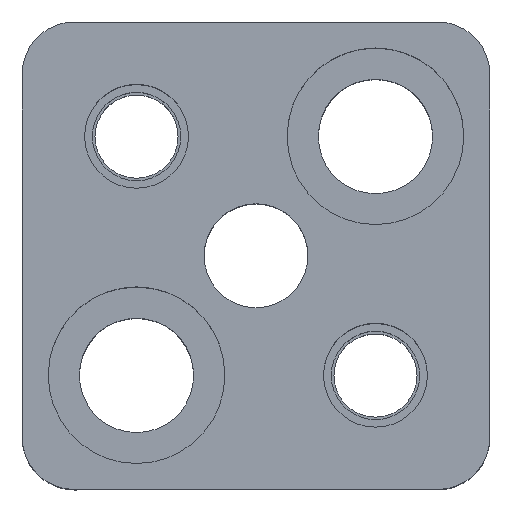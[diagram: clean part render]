
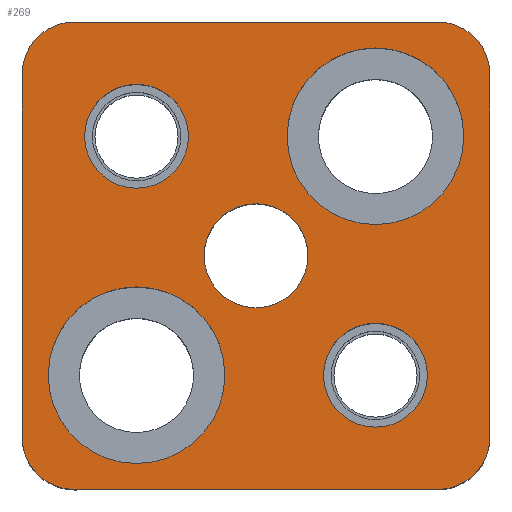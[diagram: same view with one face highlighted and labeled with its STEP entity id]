
A CAD part, top view. The second image highlights one B-rep face of the part: STEP entity #269.
In plain terms, the highlighted planar face has unit normal (0, 0, 1).
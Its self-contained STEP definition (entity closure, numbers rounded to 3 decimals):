
#111=FACE_BOUND('',#400,.T.);
#112=FACE_BOUND('',#401,.T.);
#113=FACE_BOUND('',#402,.T.);
#114=FACE_BOUND('',#403,.T.);
#115=FACE_BOUND('',#404,.T.);
#116=FACE_BOUND('',#405,.T.);
#162=CIRCLE('',#1027,5.);
#164=CIRCLE('',#1031,5.);
#166=CIRCLE('',#1035,5.);
#168=CIRCLE('',#1039,5.);
#181=CIRCLE('',#1065,8.5);
#183=CIRCLE('',#1068,8.5);
#185=CIRCLE('',#1072,8.5);
#187=CIRCLE('',#1075,8.5);
#211=CIRCLE('',#1118,5.);
#212=CIRCLE('',#1119,5.);
#213=CIRCLE('',#1120,5.);
#214=CIRCLE('',#1121,5.);
#215=CIRCLE('',#1122,5.);
#216=CIRCLE('',#1123,5.);
#269=ADVANCED_FACE('',(#111,#112,#113,#114,#115,#116),#297,.T.);
#297=PLANE('',#1124);
#400=EDGE_LOOP('',(#613,#614,#615,#616,#617,#618,#619,#620));
#401=EDGE_LOOP('',(#621,#622));
#402=EDGE_LOOP('',(#623,#624));
#403=EDGE_LOOP('',(#625,#626));
#404=EDGE_LOOP('',(#627,#628));
#405=EDGE_LOOP('',(#629,#630));
#613=ORIENTED_EDGE('',*,*,#785,.T.);
#614=ORIENTED_EDGE('',*,*,#782,.T.);
#615=ORIENTED_EDGE('',*,*,#779,.T.);
#616=ORIENTED_EDGE('',*,*,#776,.T.);
#617=ORIENTED_EDGE('',*,*,#773,.T.);
#618=ORIENTED_EDGE('',*,*,#770,.T.);
#619=ORIENTED_EDGE('',*,*,#791,.T.);
#620=ORIENTED_EDGE('',*,*,#788,.T.);
#621=ORIENTED_EDGE('',*,*,#877,.F.);
#622=ORIENTED_EDGE('',*,*,#878,.F.);
#623=ORIENTED_EDGE('',*,*,#879,.F.);
#624=ORIENTED_EDGE('',*,*,#880,.F.);
#625=ORIENTED_EDGE('',*,*,#830,.F.);
#626=ORIENTED_EDGE('',*,*,#826,.F.);
#627=ORIENTED_EDGE('',*,*,#824,.F.);
#628=ORIENTED_EDGE('',*,*,#820,.F.);
#629=ORIENTED_EDGE('',*,*,#881,.T.);
#630=ORIENTED_EDGE('',*,*,#882,.T.);
#685=VERTEX_POINT('',#1454);
#686=VERTEX_POINT('',#1456);
#688=VERTEX_POINT('',#1462);
#690=VERTEX_POINT('',#1468);
#692=VERTEX_POINT('',#1474);
#694=VERTEX_POINT('',#1480);
#696=VERTEX_POINT('',#1486);
#698=VERTEX_POINT('',#1492);
#715=VERTEX_POINT('',#1567);
#716=VERTEX_POINT('',#1568);
#719=VERTEX_POINT('',#1580);
#720=VERTEX_POINT('',#1581);
#754=VERTEX_POINT('',#1691);
#755=VERTEX_POINT('',#1692);
#756=VERTEX_POINT('',#1695);
#757=VERTEX_POINT('',#1696);
#758=VERTEX_POINT('',#1699);
#759=VERTEX_POINT('',#1700);
#770=EDGE_CURVE('',#686,#685,#902,.T.);
#773=EDGE_CURVE('',#688,#686,#162,.T.);
#776=EDGE_CURVE('',#690,#688,#906,.T.);
#779=EDGE_CURVE('',#692,#690,#164,.T.);
#782=EDGE_CURVE('',#694,#692,#910,.T.);
#785=EDGE_CURVE('',#696,#694,#166,.T.);
#788=EDGE_CURVE('',#698,#696,#914,.T.);
#791=EDGE_CURVE('',#685,#698,#168,.T.);
#820=EDGE_CURVE('',#715,#716,#181,.T.);
#824=EDGE_CURVE('',#716,#715,#183,.T.);
#826=EDGE_CURVE('',#719,#720,#185,.T.);
#830=EDGE_CURVE('',#720,#719,#187,.T.);
#877=EDGE_CURVE('',#754,#755,#211,.T.);
#878=EDGE_CURVE('',#755,#754,#212,.T.);
#879=EDGE_CURVE('',#756,#757,#213,.T.);
#880=EDGE_CURVE('',#757,#756,#214,.T.);
#881=EDGE_CURVE('',#758,#759,#215,.T.);
#882=EDGE_CURVE('',#759,#758,#216,.T.);
#902=LINE('',#1455,#964);
#906=LINE('',#1467,#968);
#910=LINE('',#1479,#972);
#914=LINE('',#1491,#976);
#964=VECTOR('',#1149,1.);
#968=VECTOR('',#1161,1.);
#972=VECTOR('',#1173,1.);
#976=VECTOR('',#1185,1.);
#1027=AXIS2_PLACEMENT_3D('',#1461,#1155,#1156);
#1031=AXIS2_PLACEMENT_3D('',#1473,#1167,#1168);
#1035=AXIS2_PLACEMENT_3D('',#1485,#1179,#1180);
#1039=AXIS2_PLACEMENT_3D('',#1496,#1191,#1192);
#1065=AXIS2_PLACEMENT_3D('',#1566,#1255,#1256);
#1068=AXIS2_PLACEMENT_3D('',#1575,#1263,#1264);
#1072=AXIS2_PLACEMENT_3D('',#1579,#1271,#1272);
#1075=AXIS2_PLACEMENT_3D('',#1588,#1279,#1280);
#1118=AXIS2_PLACEMENT_3D('',#1690,#1387,#1388);
#1119=AXIS2_PLACEMENT_3D('',#1693,#1389,#1390);
#1120=AXIS2_PLACEMENT_3D('',#1694,#1391,#1392);
#1121=AXIS2_PLACEMENT_3D('',#1697,#1393,#1394);
#1122=AXIS2_PLACEMENT_3D('',#1698,#1395,#1396);
#1123=AXIS2_PLACEMENT_3D('',#1701,#1397,#1398);
#1124=AXIS2_PLACEMENT_3D('',#1702,#1399,#1400);
#1149=DIRECTION('',(0.,-1.,0.));
#1155=DIRECTION('',(0.,0.,1.));
#1156=DIRECTION('',(0.707,-0.707,0.));
#1161=DIRECTION('',(-1.,0.,0.));
#1167=DIRECTION('',(0.,0.,1.));
#1168=DIRECTION('',(-0.707,-0.707,0.));
#1173=DIRECTION('',(0.,1.,0.));
#1179=DIRECTION('',(0.,0.,1.));
#1180=DIRECTION('',(-0.707,0.707,0.));
#1185=DIRECTION('',(1.,0.,0.));
#1191=DIRECTION('',(0.,0.,1.));
#1192=DIRECTION('',(0.707,0.707,0.));
#1255=DIRECTION('',(0.,0.,1.));
#1256=DIRECTION('',(-1.,0.,0.));
#1263=DIRECTION('',(0.,0.,1.));
#1264=DIRECTION('',(1.,0.,0.));
#1271=DIRECTION('',(0.,0.,1.));
#1272=DIRECTION('',(-1.,0.,0.));
#1279=DIRECTION('',(0.,0.,1.));
#1280=DIRECTION('',(1.,0.,0.));
#1387=DIRECTION('',(0.,0.,1.));
#1388=DIRECTION('',(1.,0.,0.));
#1389=DIRECTION('',(0.,0.,1.));
#1390=DIRECTION('',(-1.,0.,0.));
#1391=DIRECTION('',(0.,0.,1.));
#1392=DIRECTION('',(1.,0.,0.));
#1393=DIRECTION('',(0.,0.,1.));
#1394=DIRECTION('',(-1.,0.,0.));
#1395=DIRECTION('',(0.,0.,-1.));
#1396=DIRECTION('',(-1.,0.,0.));
#1397=DIRECTION('',(0.,0.,-1.));
#1398=DIRECTION('',(1.,0.,0.));
#1399=DIRECTION('',(0.,0.,1.));
#1400=DIRECTION('',(-1.,0.,0.));
#1454=CARTESIAN_POINT('',(-22.5,-17.5,30.));
#1455=CARTESIAN_POINT('',(-22.5,17.5,30.));
#1456=CARTESIAN_POINT('',(-22.5,17.5,30.));
#1461=CARTESIAN_POINT('',(-17.5,17.5,30.));
#1462=CARTESIAN_POINT('',(-17.5,22.5,30.));
#1467=CARTESIAN_POINT('',(-17.5,22.5,30.));
#1468=CARTESIAN_POINT('',(17.5,22.5,30.));
#1473=CARTESIAN_POINT('',(17.5,17.5,30.));
#1474=CARTESIAN_POINT('',(22.5,17.5,30.));
#1479=CARTESIAN_POINT('',(22.5,17.5,30.));
#1480=CARTESIAN_POINT('',(22.5,-17.5,30.));
#1485=CARTESIAN_POINT('',(17.5,-17.5,30.));
#1486=CARTESIAN_POINT('',(17.5,-22.5,30.));
#1491=CARTESIAN_POINT('',(-17.5,-22.5,30.));
#1492=CARTESIAN_POINT('',(-17.5,-22.5,30.));
#1496=CARTESIAN_POINT('',(-17.5,-17.5,30.));
#1566=CARTESIAN_POINT('',(-11.5,-11.5,30.));
#1567=CARTESIAN_POINT('',(-11.5,-20.,30.));
#1568=CARTESIAN_POINT('',(-11.5,-3.,30.));
#1575=CARTESIAN_POINT('',(-11.5,-11.5,30.));
#1579=CARTESIAN_POINT('',(11.5,11.5,30.));
#1580=CARTESIAN_POINT('',(11.5,3.,30.));
#1581=CARTESIAN_POINT('',(11.5,20.,30.));
#1588=CARTESIAN_POINT('',(11.5,11.5,30.));
#1690=CARTESIAN_POINT('',(-11.5,11.5,30.));
#1691=CARTESIAN_POINT('',(-11.5,16.5,30.));
#1692=CARTESIAN_POINT('',(-11.5,6.5,30.));
#1693=CARTESIAN_POINT('',(-11.5,11.5,30.));
#1694=CARTESIAN_POINT('',(11.5,-11.5,30.));
#1695=CARTESIAN_POINT('',(11.5,-6.5,30.));
#1696=CARTESIAN_POINT('',(11.5,-16.5,30.));
#1697=CARTESIAN_POINT('',(11.5,-11.5,30.));
#1698=CARTESIAN_POINT('',(0.,0.,30.));
#1699=CARTESIAN_POINT('',(0.,5.,30.));
#1700=CARTESIAN_POINT('',(0.,-5.,30.));
#1701=CARTESIAN_POINT('',(0.,0.,30.));
#1702=CARTESIAN_POINT('',(17.5,-22.5,30.));
